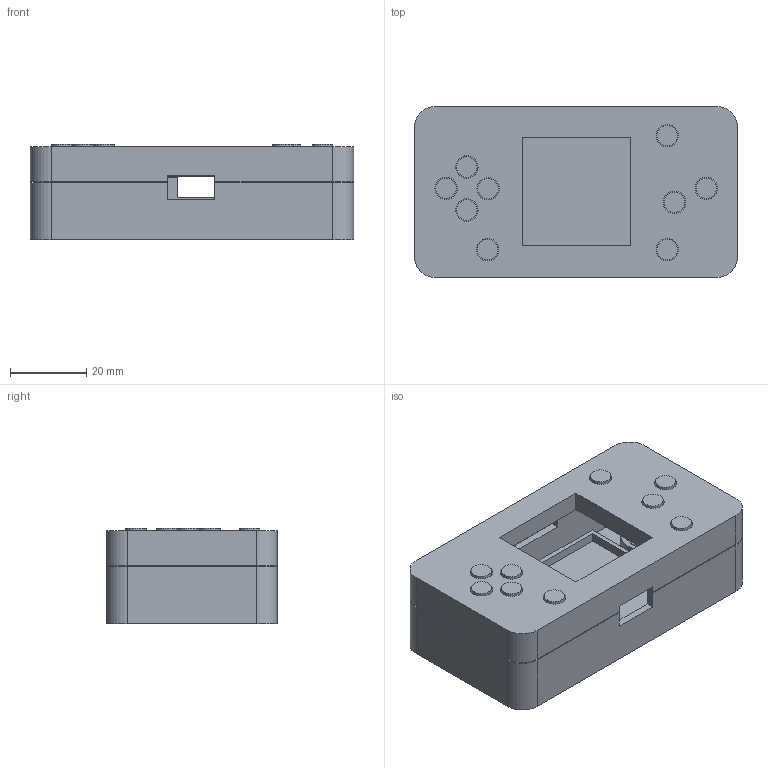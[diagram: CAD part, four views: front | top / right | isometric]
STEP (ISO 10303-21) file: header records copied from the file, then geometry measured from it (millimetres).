
FILE_DESCRIPTION(('FreeCAD Model'),'2;1');
FILE_NAME('Open CASCADE Shape Model','2026-10-15T11:16:27',('FreeCAD'),( 'FreeCAD'),'Open CASCADE STEP processor 7.8','FreeCAD','Unknown');
FILE_SCHEMA(('AUTOMOTIVE_DESIGN { 1 0 10303 214 1 1 1 1 }'));
Length unit declared in the file: millimetre
Products named in the file (1): Open CASCADE STEP translator 7.8 1
Bounding box: 85 x 45 x 25.1 mm (x, y, z)
Volume: 25584.9 mm3; surface area: 29339.7 mm2
Topology: 11 solids, 11 shells, 266 faces, 659 edges, 442 vertices
Faces by surface type: plane 175, cylinder 91
Full cylindrical faces by diameter (mm): 1.7 x4, 2.3 x4, 2.5 x9, 4.4 x4, 5.4 x9, 5.9 x9, 6 x4, 6.8 x9
Entity records: 8021 total; most frequent: DIRECTION 1417, CARTESIAN_POINT 1368, ORIENTED_EDGE 1318, EDGE_CURVE 659, AXIS2_PLACEMENT_3D 491, VERTEX_POINT 442, LINE 435, VECTOR 435
